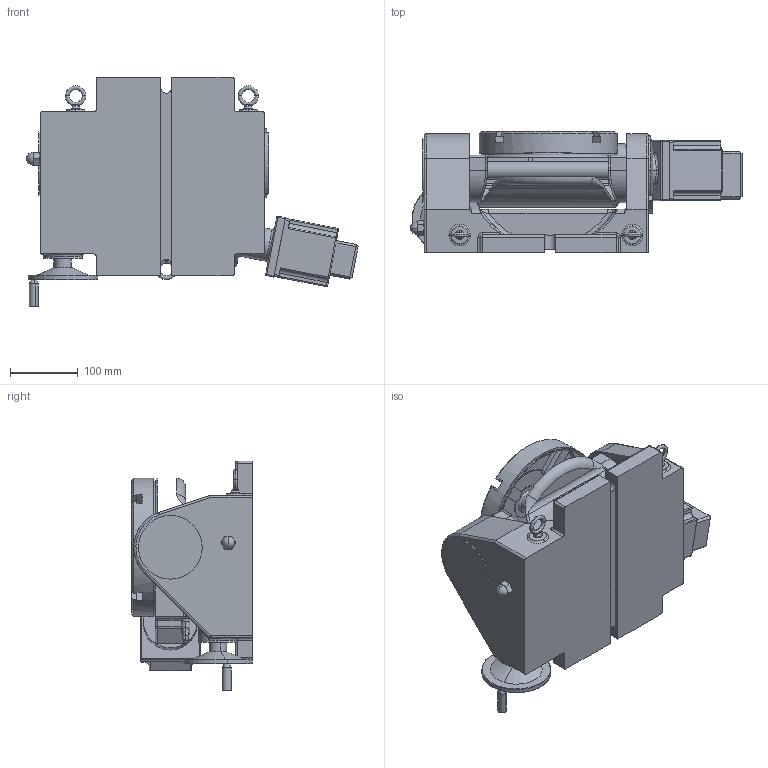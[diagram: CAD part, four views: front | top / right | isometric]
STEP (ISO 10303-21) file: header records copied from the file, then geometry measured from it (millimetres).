
FILE_DESCRIPTION (( 'STEP AP214' ), '1' );
FILE_NAME ('31848 8 INCH TILTING ROTARY TABLE-HORZ.STEP', '2015-03-25T19:12:04', ( '' ), ( '' ), 'SwSTEP 2.0', 'SolidWorks 2012', '' );
FILE_SCHEMA (( 'AUTOMOTIVE_DESIGN' ));
Length unit declared in the file: inch
Products named in the file (7): ACORN NUT_91875A170; HANDLE_6848K35; HANDWHEEL_8499T24; TABLE; EYEBOLT_3014T45; BASE; 31848 8 INCH TILTING ROTARY TABLE-HORZ
Assembly tree (8 placements, depth 2):
  31848 8 INCH TILTING ROTARY TABLE-HORZ
    BASE
    EYEBOLT_3014T45  x3
    TABLE
    HANDWHEEL_8499T24
    HANDLE_6848K35
    ACORN NUT_91875A170
Bounding box: 488.42 x 177.8 x 338.33 mm (x, y, z)
Volume: 9345212.8 mm3; surface area: 612109 mm2
Topology: 8 solids, 8 shells, 611 faces, 1512 edges, 906 vertices
Faces by surface type: cylinder 241, plane 160, torus 86, cone 61, bspline 37, sphere 26
Entity records: 22586 total; most frequent: CARTESIAN_POINT 8329, ORIENTED_EDGE 2792, DIRECTION 2764, EDGE_CURVE 1396, AXIS2_PLACEMENT_3D 1102, VERTEX_POINT 853, EDGE_LOOP 607, FACE_OUTER_BOUND 579
